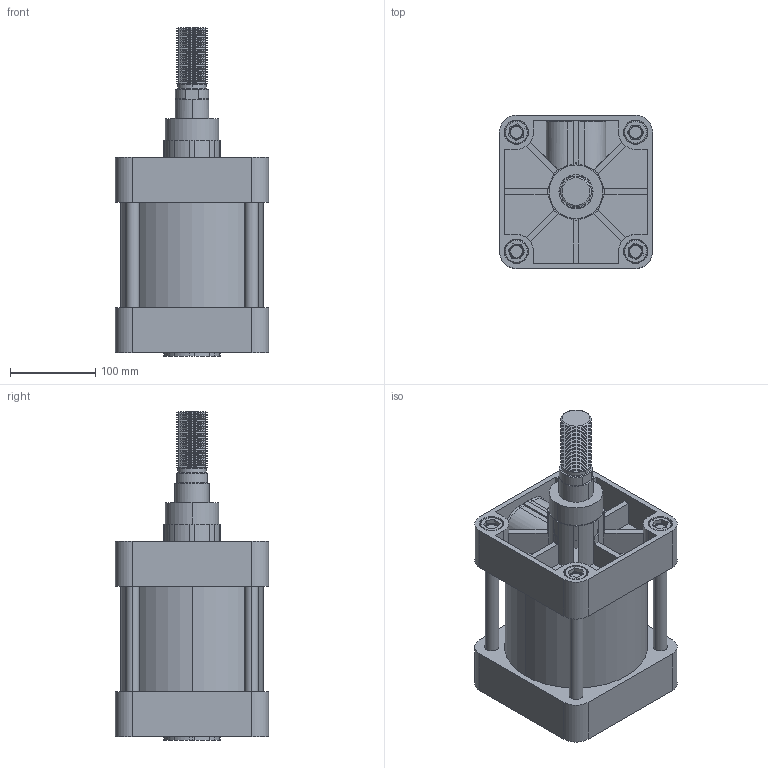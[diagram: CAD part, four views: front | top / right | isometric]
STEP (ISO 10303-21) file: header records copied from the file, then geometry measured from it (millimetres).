
FILE_DESCRIPTION (( 'STEP AP203' ), '1' );
FILE_NAME ('XJ160.0050.STEP', '2005-10-25T15:00:23', ( 'Vesta Automation srl' ), ( 'Vesta Automation srl' ), 'SwSTEP 2.0', 'SolidWorks 2005187', '' );
FILE_SCHEMA (( 'CONFIG_CONTROL_DESIGN' ));
Length unit declared in the file: millimetre
Products named in the file (6): PISTON ROD-XJ160_STROKE 0050; TIE ROD-XJ160_STROKE 0050; XJ160.0050; FRONT END CAP-XJ160; REAR END CAP-XJ160; BARREL-XJ160_STROKE 0050
Assembly tree (8 placements, depth 2):
  XJ160.0050
    PISTON ROD-XJ160_STROKE 0050
    REAR END CAP-XJ160
    FRONT END CAP-XJ160
    TIE ROD-XJ160_STROKE 0050  x4
    BARREL-XJ160_STROKE 0050
Bounding box: 180 x 180 x 386 mm (x, y, z)
Volume: 4105039.4 mm3; surface area: 699417.6 mm2
Topology: 8 solids, 10 shells, 1483 faces, 3200 edges, 1786 vertices
Faces by surface type: cone 874, cylinder 346, plane 255, torus 8
Entity records: 40068 total; most frequent: DIRECTION 7550, CARTESIAN_POINT 6639, ORIENTED_EDGE 6364, EDGE_CURVE 3182, AXIS2_PLACEMENT_3D 2905, VERTEX_POINT 1774, LINE 1740, VECTOR 1740
